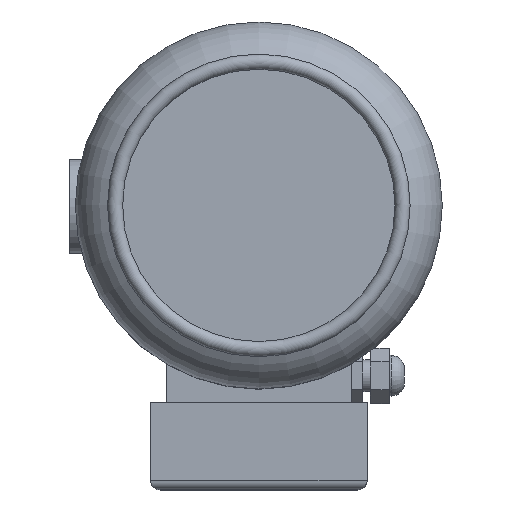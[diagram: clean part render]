
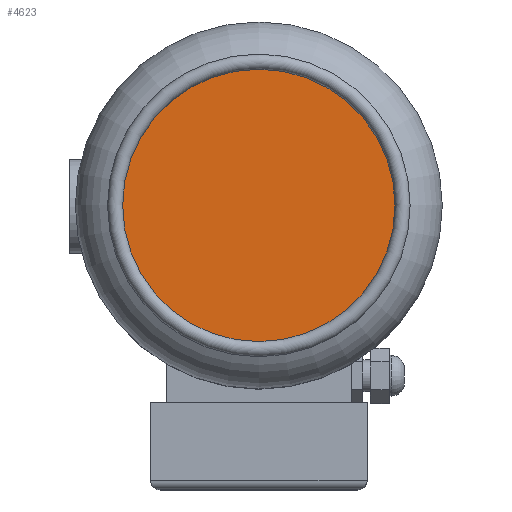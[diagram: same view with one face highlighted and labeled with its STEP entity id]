
A CAD part, top view. The second image highlights one B-rep face of the part: STEP entity #4623.
In plain terms, the highlighted planar face has unit normal (0, 0, 1).
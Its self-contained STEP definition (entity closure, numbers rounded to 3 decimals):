
#355=PLANE('',#5121);
#578=CIRCLE('',#5122,72.);
#1257=ORIENTED_EDGE('',*,*,#2190,.F.);
#2190=EDGE_CURVE('',#2745,#2745,#578,.T.);
#2745=VERTEX_POINT('',#8364);
#3742=EDGE_LOOP('',(#1257));
#4228=FACE_BOUND('',#3742,.T.);
#4623=ADVANCED_FACE('',(#4228),#355,.T.);
#5121=AXIS2_PLACEMENT_3D('',#8362,#6062,#6063);
#5122=AXIS2_PLACEMENT_3D('',#8363,#6064,#6065);
#6062=DIRECTION('',(0.,0.,1.));
#6063=DIRECTION('',(1.,0.,0.));
#6064=DIRECTION('',(0.,0.,-1.));
#6065=DIRECTION('',(-1.,0.,0.));
#8362=CARTESIAN_POINT('',(-72.,0.,932.26));
#8363=CARTESIAN_POINT('',(0.,0.,932.26));
#8364=CARTESIAN_POINT('',(-72.,0.,932.26));
